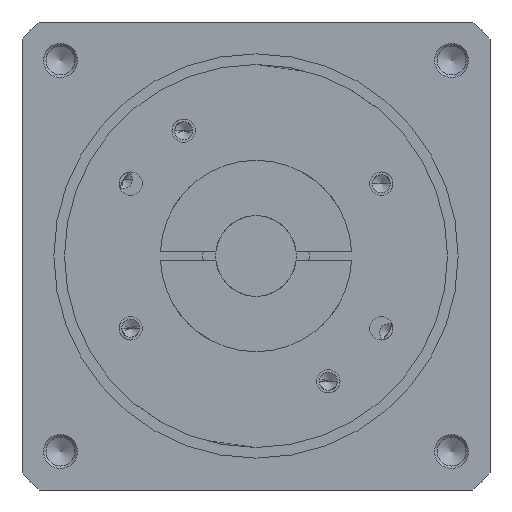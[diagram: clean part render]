
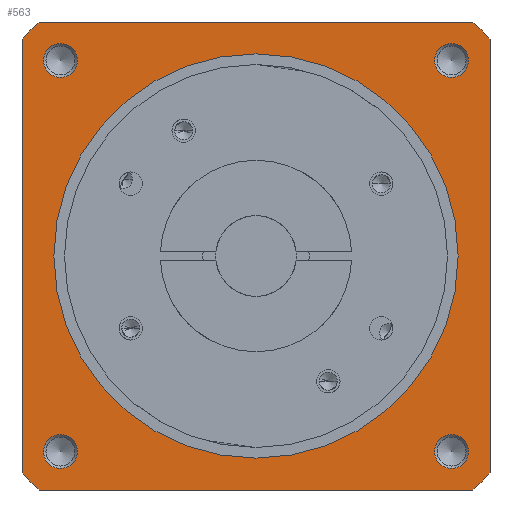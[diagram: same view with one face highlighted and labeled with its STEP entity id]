
A CAD part, front view. The second image highlights one B-rep face of the part: STEP entity #563.
In plain terms, the highlighted planar face has unit normal (0, -1, 0).
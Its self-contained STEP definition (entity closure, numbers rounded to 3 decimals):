
#208=PLANE('',#5175);
#294=FACE_BOUND('',#1222,.T.);
#295=FACE_BOUND('',#1223,.T.);
#296=FACE_BOUND('',#1224,.T.);
#297=FACE_BOUND('',#1225,.T.);
#298=FACE_BOUND('',#1226,.T.);
#299=FACE_BOUND('',#1227,.T.);
#563=ADVANCED_FACE('',(#294,#295,#296,#297,#298,#299),#208,.F.);
#1222=EDGE_LOOP('',(#2871));
#1223=EDGE_LOOP('',(#2872));
#1224=EDGE_LOOP('',(#2873));
#1225=EDGE_LOOP('',(#2874));
#1226=EDGE_LOOP('',(#2875));
#1227=EDGE_LOOP('',(#2876,#2877,#2878,#2879,#2880,#2881,#2882,#2883));
#1574=CIRCLE('',#5166,4.);
#1575=CIRCLE('',#5167,4.);
#1576=CIRCLE('',#5168,4.);
#1577=CIRCLE('',#5169,4.);
#1578=CIRCLE('',#5170,47.5);
#1579=CIRCLE('',#5171,75.);
#1580=CIRCLE('',#5172,75.);
#1581=CIRCLE('',#5173,75.);
#1582=CIRCLE('',#5174,75.);
#1910=LINE('',#8476,#2187);
#1911=LINE('',#8481,#2188);
#1912=LINE('',#8485,#2189);
#1913=LINE('',#8489,#2190);
#2187=VECTOR('',#6146,1.);
#2188=VECTOR('',#6149,1.);
#2189=VECTOR('',#6152,1.);
#2190=VECTOR('',#6155,1.);
#2871=ORIENTED_EDGE('',*,*,#4481,.T.);
#2872=ORIENTED_EDGE('',*,*,#4482,.T.);
#2873=ORIENTED_EDGE('',*,*,#4483,.T.);
#2874=ORIENTED_EDGE('',*,*,#4484,.T.);
#2875=ORIENTED_EDGE('',*,*,#4485,.F.);
#2876=ORIENTED_EDGE('',*,*,#4486,.T.);
#2877=ORIENTED_EDGE('',*,*,#4487,.F.);
#2878=ORIENTED_EDGE('',*,*,#4488,.F.);
#2879=ORIENTED_EDGE('',*,*,#4489,.F.);
#2880=ORIENTED_EDGE('',*,*,#4490,.F.);
#2881=ORIENTED_EDGE('',*,*,#4491,.F.);
#2882=ORIENTED_EDGE('',*,*,#4492,.T.);
#2883=ORIENTED_EDGE('',*,*,#4493,.F.);
#3943=VERTEX_POINT('',#8467);
#3944=VERTEX_POINT('',#8469);
#3945=VERTEX_POINT('',#8471);
#3946=VERTEX_POINT('',#8473);
#3947=VERTEX_POINT('',#8475);
#3948=VERTEX_POINT('',#8477);
#3949=VERTEX_POINT('',#8478);
#3950=VERTEX_POINT('',#8480);
#3951=VERTEX_POINT('',#8482);
#3952=VERTEX_POINT('',#8484);
#3953=VERTEX_POINT('',#8486);
#3954=VERTEX_POINT('',#8488);
#3955=VERTEX_POINT('',#8490);
#4481=EDGE_CURVE('',#3943,#3943,#1574,.T.);
#4482=EDGE_CURVE('',#3944,#3944,#1575,.T.);
#4483=EDGE_CURVE('',#3945,#3945,#1576,.T.);
#4484=EDGE_CURVE('',#3946,#3946,#1577,.T.);
#4485=EDGE_CURVE('',#3947,#3947,#1578,.T.);
#4486=EDGE_CURVE('',#3948,#3949,#1910,.T.);
#4487=EDGE_CURVE('',#3950,#3949,#1579,.T.);
#4488=EDGE_CURVE('',#3951,#3950,#1911,.T.);
#4489=EDGE_CURVE('',#3952,#3951,#1580,.T.);
#4490=EDGE_CURVE('',#3953,#3952,#1912,.T.);
#4491=EDGE_CURVE('',#3954,#3953,#1581,.T.);
#4492=EDGE_CURVE('',#3954,#3955,#1913,.T.);
#4493=EDGE_CURVE('',#3948,#3955,#1582,.T.);
#5166=AXIS2_PLACEMENT_3D('',#8466,#6136,#6137);
#5167=AXIS2_PLACEMENT_3D('',#8468,#6138,#6139);
#5168=AXIS2_PLACEMENT_3D('',#8470,#6140,#6141);
#5169=AXIS2_PLACEMENT_3D('',#8472,#6142,#6143);
#5170=AXIS2_PLACEMENT_3D('',#8474,#6144,#6145);
#5171=AXIS2_PLACEMENT_3D('',#8479,#6147,#6148);
#5172=AXIS2_PLACEMENT_3D('',#8483,#6150,#6151);
#5173=AXIS2_PLACEMENT_3D('',#8487,#6153,#6154);
#5174=AXIS2_PLACEMENT_3D('',#8491,#6156,#6157);
#5175=AXIS2_PLACEMENT_3D('',#8492,#6158,#6159);
#6136=DIRECTION('',(0.,1.,0.));
#6137=DIRECTION('',(0.,0.,1.));
#6138=DIRECTION('',(0.,1.,0.));
#6139=DIRECTION('',(0.,0.,1.));
#6140=DIRECTION('',(0.,1.,0.));
#6141=DIRECTION('',(0.,0.,1.));
#6142=DIRECTION('',(0.,1.,0.));
#6143=DIRECTION('',(0.,0.,1.));
#6144=DIRECTION('',(0.,-1.,0.));
#6145=DIRECTION('',(0.,0.,1.));
#6146=DIRECTION('',(-1.,0.,0.));
#6147=DIRECTION('',(0.,1.,0.));
#6148=DIRECTION('',(0.,0.,1.));
#6149=DIRECTION('',(0.,0.,1.));
#6150=DIRECTION('',(0.,1.,0.));
#6151=DIRECTION('',(0.,0.,1.));
#6152=DIRECTION('',(-1.,0.,0.));
#6153=DIRECTION('',(0.,1.,0.));
#6154=DIRECTION('',(0.,0.,1.));
#6155=DIRECTION('',(0.,0.,1.));
#6156=DIRECTION('',(0.,1.,0.));
#6157=DIRECTION('',(0.,0.,1.));
#6158=DIRECTION('',(0.,1.,0.));
#6159=DIRECTION('',(0.,0.,-1.));
#8466=CARTESIAN_POINT('',(-45.962,-17.,-45.962));
#8467=CARTESIAN_POINT('',(-45.962,-17.,-41.962));
#8468=CARTESIAN_POINT('',(-45.962,-17.,45.962));
#8469=CARTESIAN_POINT('',(-45.962,-17.,49.962));
#8470=CARTESIAN_POINT('',(45.962,-17.,45.962));
#8471=CARTESIAN_POINT('',(45.962,-17.,49.962));
#8472=CARTESIAN_POINT('',(45.962,-17.,-45.962));
#8473=CARTESIAN_POINT('',(45.962,-17.,-41.962));
#8474=CARTESIAN_POINT('',(0.,-17.,0.));
#8475=CARTESIAN_POINT('',(0.,-17.,47.5));
#8476=CARTESIAN_POINT('',(0.,-17.,55.));
#8477=CARTESIAN_POINT('',(50.99,-17.,55.));
#8478=CARTESIAN_POINT('',(-50.99,-17.,55.));
#8479=CARTESIAN_POINT('',(0.,-17.,0.));
#8480=CARTESIAN_POINT('',(-55.,-17.,50.99));
#8481=CARTESIAN_POINT('',(-55.,-17.,0.));
#8482=CARTESIAN_POINT('',(-55.,-17.,-50.99));
#8483=CARTESIAN_POINT('',(0.,-17.,0.));
#8484=CARTESIAN_POINT('',(-50.99,-17.,-55.));
#8485=CARTESIAN_POINT('',(0.,-17.,-55.));
#8486=CARTESIAN_POINT('',(50.99,-17.,-55.));
#8487=CARTESIAN_POINT('',(0.,-17.,0.));
#8488=CARTESIAN_POINT('',(55.,-17.,-50.99));
#8489=CARTESIAN_POINT('',(55.,-17.,0.));
#8490=CARTESIAN_POINT('',(55.,-17.,50.99));
#8491=CARTESIAN_POINT('',(0.,-17.,0.));
#8492=CARTESIAN_POINT('',(0.,-17.,0.));
